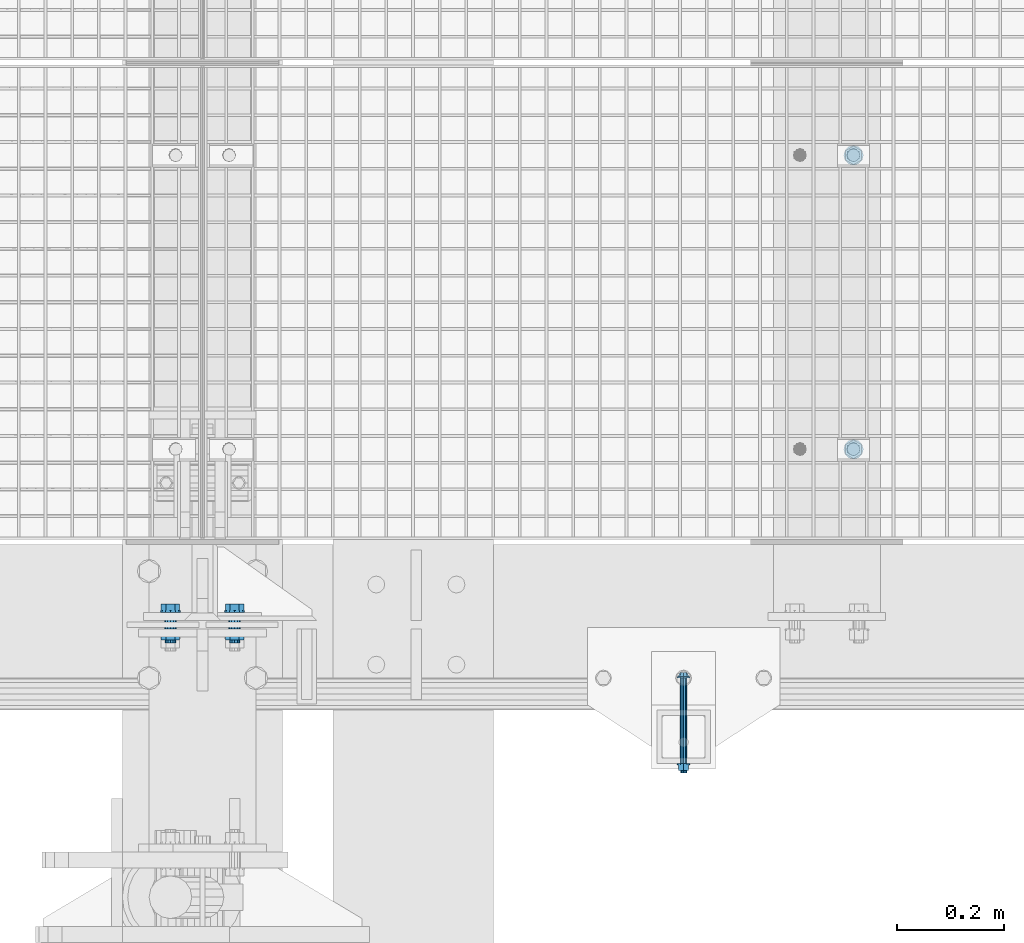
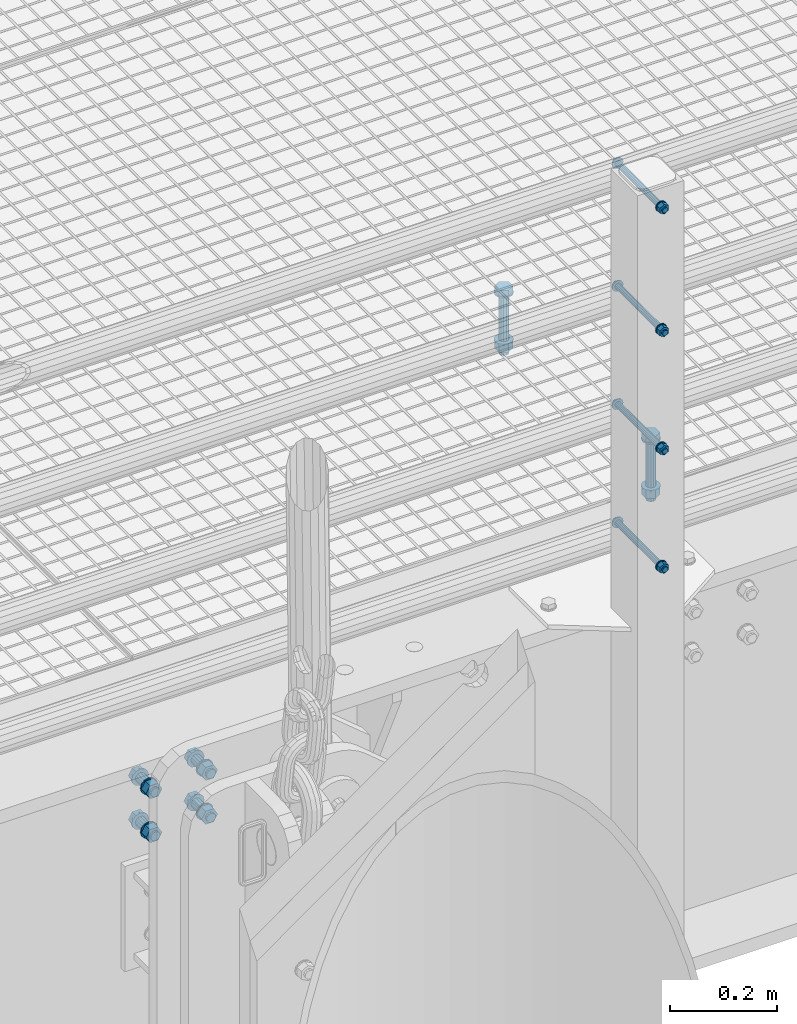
# One storey, part 23 of 1530: 6 mechanical fasteners.
"""IFC2X3 building model written with IfcOpenShell, lengths in millimetres."""

import ifcopenshell
import ifcopenshell.guid

model = None  # the IFC model being written
_history = None  # IfcOwnerHistory: only IFC2X3 demands one
_inside = {}  # id of a spatial element -> (the spatial element, [elements in it])
_under = {}  # id of a project, library or spatial element -> (it, [spatial elements below it])
_declared = {}  # id of a project -> (the project, [libraries it declares])
_typed = {}  # id of a type object -> (the type object, [elements of that type])
_made_of = {}  # id of a material, layer set ... -> (it, [elements and type objects made of it])


def new_model(schema):
    """Start an empty IFC model of exactly this schema.

    Asked for "IFC4X3", IfcOpenShell would pick the latest addendum, in which some entities
    have other attributes; the version numbers below select the first issue.
    IFC2X3 requires an IfcOwnerHistory on every rooted entity: one is made here for all.
    """
    global model, _history
    if schema == "IFC4X3":
        model = ifcopenshell.file(schema_version=(4, 3, 0, 0))
    else:
        model = ifcopenshell.file(schema=schema)
    _inside.clear()
    _under.clear()
    _declared.clear()
    _typed.clear()
    _made_of.clear()
    _history = None
    if model.schema == "IFC2X3":
        org = make("IfcOrganization", Name="unknown")
        user = make(
            "IfcPersonAndOrganization",
            ThePerson=make("IfcPerson", FamilyName="unknown"),
            TheOrganization=org,
        )
        app = make(
            "IfcApplication",
            ApplicationDeveloper=org,
            Version="unknown",
            ApplicationFullName="unknown",
            ApplicationIdentifier="unknown",
        )
        _history = make(
            "IfcOwnerHistory",
            OwningUser=user,
            OwningApplication=app,
            ChangeAction="ADDED",
            CreationDate=0,
        )
    return model


def make(cls, **values):
    """One entity of the class cls with the attributes given. An attribute that is None is left unset."""
    return model.create_entity(
        cls, **{name: value for name, value in values.items() if value is not None}
    )


def rooted(cls, **values):
    """An entity with a GlobalId (a new one), such as an element, a storey or a relation."""
    return make(cls, GlobalId=ifcopenshell.guid.new(), OwnerHistory=_history, **values)


def si_unit(unit_type, name, prefix=None):
    """IfcSIUnit, for example si_unit("LENGTHUNIT", "METRE", prefix="MILLI")."""
    return make("IfcSIUnit", UnitType=unit_type, Prefix=prefix, Name=name)


def assignment(units):
    """IfcUnitAssignment: the units of a project."""
    return None if units is None else make("IfcUnitAssignment", Units=units)


def point(xyz):
    """IfcCartesianPoint."""
    return None if xyz is None else make("IfcCartesianPoint", Coordinates=xyz)


def direction(xyz):
    """IfcDirection."""
    return None if xyz is None else make("IfcDirection", DirectionRatios=xyz)


def frame(location, z_axis=None, x_axis=None):
    """IfcAxis2Placement3D, a coordinate frame: its origin and axes. An axis left out is left unset."""
    return make(
        "IfcAxis2Placement3D",
        Location=point(location),
        Axis=direction(z_axis),
        RefDirection=direction(x_axis),
    )


def origin_with_axes():
    """The frame at (0, 0, 0) with the z axis (0, 0, 1) and the x axis (1, 0, 0) written out."""
    return frame((0.0, 0.0, 0.0), z_axis=(0.0, 0.0, 1.0), x_axis=(1.0, 0.0, 0.0))


def place(relative_to, where):
    """IfcLocalPlacement: puts the frame where relative to a parent placement (None: the world)."""
    return make(
        "IfcLocalPlacement", PlacementRelTo=relative_to, RelativePlacement=where
    )


def context(
    kind, dimensions, precision=None, world=None, true_north=None, identifier=None
):
    """IfcGeometricRepresentationContext, for example the 3D "Model" context."""
    return make(
        "IfcGeometricRepresentationContext",
        ContextIdentifier=identifier,
        ContextType=kind,
        CoordinateSpaceDimension=dimensions,
        Precision=precision,
        WorldCoordinateSystem=world,
        TrueNorth=true_north,
    )


def subcontext(parent, identifier, kind, view, scale=None):
    """IfcGeometricRepresentationSubContext, for example "Body" below "Model"."""
    return make(
        "IfcGeometricRepresentationSubContext",
        ContextIdentifier=identifier,
        ContextType=kind,
        ParentContext=parent,
        TargetScale=scale,
        TargetView=view,
    )


def project(units=None, contexts=None):
    """IfcProject with its units and contexts."""
    return rooted(
        "IfcProject",
        Name="project",
        RepresentationContexts=contexts,
        UnitsInContext=assignment(units),
    )


def spatial(cls, under=None, at=None, **own):
    """A site, building, storey or space (cls), placed at a placement, below another one or the project."""
    s = rooted(cls, ObjectPlacement=at, **own)
    if under is not None:
        _under.setdefault(under.id(), (under, []))[1].append(s)
    return s


def faces_of(points, faces, orient=None, outer=None):
    """IfcFace entities. A face is a list of loops; a loop is a list of indices into points, from 0.

    orient and outer hold one flag for each loop. By default every Orientation is true, the
    first loop of a face is its IfcFaceOuterBound and the others are IfcFaceBound.
    """
    made = []
    for i, loops in enumerate(faces):
        bounds = []
        for j, loop in enumerate(loops):
            is_outer = j == 0 if outer is None else outer[i][j]
            bounds.append(
                make(
                    "IfcFaceOuterBound" if is_outer else "IfcFaceBound",
                    Bound=make("IfcPolyLoop", Polygon=[points[k] for k in loop]),
                    Orientation=True if orient is None else orient[i][j],
                )
            )
        made.append(make("IfcFace", Bounds=bounds))
    return made


def faceted_brep(points, faces, orient=None, outer=None, voids=None):
    """IfcFacetedBrep: a solid bounded by flat faces; with voids (closed shells), ...WithVoids."""
    shared = [point(p) for p in points]
    hull = make("IfcClosedShell", CfsFaces=faces_of(shared, faces, orient, outer))
    if voids is None:
        return make("IfcFacetedBrep", Outer=hull)
    return make(
        "IfcFacetedBrepWithVoids",
        Outer=hull,
        Voids=[
            make(cls, CfsFaces=faces_of(shared, fs, o, b)) for cls, fs, o, b in voids
        ],
    )


def shape(context_of_items, identifier, shape_type, items):
    """IfcShapeRepresentation: the items that make up one representation, for example the "Body"."""
    return make(
        "IfcShapeRepresentation",
        ContextOfItems=context_of_items,
        RepresentationIdentifier=identifier,
        RepresentationType=shape_type,
        Items=items,
    )


def source(mapping_origin, context_of_items, identifier, shape_type, items):
    """IfcRepresentationMap: a shape defined once, which mapped items show again and again."""
    return make(
        "IfcRepresentationMap",
        MappingOrigin=mapping_origin,
        MappedRepresentation=shape(context_of_items, identifier, shape_type, items),
    )


def transform(
    local_origin,
    x_axis=None,
    y_axis=None,
    z_axis=None,
    scale=None,
    scale2=None,
    scale3=None,
    uniform=True,
):
    """IfcCartesianTransformationOperator3D, or its non-uniform kind. x_axis, y_axis, z_axis: its Axis1, 2, 3."""
    if uniform:
        return make(
            "IfcCartesianTransformationOperator3D",
            Axis1=direction(x_axis),
            Axis2=direction(y_axis),
            LocalOrigin=point(local_origin),
            Scale=scale,
            Axis3=direction(z_axis),
        )
    return make(
        "IfcCartesianTransformationOperator3DnonUniform",
        Axis1=direction(x_axis),
        Axis2=direction(y_axis),
        LocalOrigin=point(local_origin),
        Scale=scale,
        Axis3=direction(z_axis),
        Scale2=scale2,
        Scale3=scale3,
    )


def mapped(mapping_source, mapping_target):
    """IfcMappedItem: shows the shape of a source again, moved by a transform."""
    return make(
        "IfcMappedItem", MappingSource=mapping_source, MappingTarget=mapping_target
    )


def material(Name=None, Category=None):
    """IfcMaterial."""
    return make("IfcMaterial", Name=Name, Category=Category)


def made_of(thing, what):
    """Note that an element or type object is made of a material, layer set ...; save() writes the relation."""
    if what is not None:
        _made_of.setdefault(what.id(), (what, []))[1].append(thing)
    return thing


def type_object(cls, material=None, **own):
    """A type object (cls), such as IfcWallType, which elements share."""
    return made_of(rooted(cls, **own), material)


def element(
    cls,
    number,
    at=None,
    inside=None,
    cuts=None,
    type_object=None,
    material=None,
    context=None,
    identifier="Body",
    shape_type=None,
    held_by="IfcProductDefinitionShape",
    body=None,
    shapes=None,
    **own,
):
    """One element of the class cls, such as IfcWall. Its Tag is "e" and its number.

    at: its placement. inside: the storey or other place that contains it. cuts: it is an
    opening in that element (IfcRelVoidsElement). A single representation is given by context,
    identifier, shape_type and body (its items); several are given by shapes. held_by: the class
    of the entity that holds the representations. save() writes the other relations.
    """
    e = rooted(cls, Tag="e%d" % number, ObjectPlacement=at, **own)
    if body is not None:
        shapes = [shape(context, identifier, shape_type, body)]
    if shapes is not None:
        e.Representation = make(held_by, Representations=shapes)
    if inside is not None:
        _inside.setdefault(inside.id(), (inside, []))[1].append(e)
    if cuts is not None:
        rooted(
            "IfcRelVoidsElement", RelatingBuildingElement=cuts, RelatedOpeningElement=e
        )
    if type_object is not None:
        _typed.setdefault(type_object.id(), (type_object, []))[1].append(e)
    return made_of(e, material)


def aggregate(whole, parts):
    """IfcRelAggregates: a whole, such as a stair, and the parts it consists of."""
    return rooted("IfcRelAggregates", RelatingObject=whole, RelatedObjects=parts)


def save(model, path):
    """Write the relations noted so far, then the file.

    IfcRelAggregates (storeys below a building ...), IfcRelContainedInSpatialStructure (elements
    in a storey), IfcRelDefinesByType, IfcRelAssociatesMaterial and IfcRelDeclares: one each for
    every whole, place, type object, material and project.
    """
    for whole, parts in _under.values():
        aggregate(whole, parts)
    for where, things in _inside.values():
        rooted(
            "IfcRelContainedInSpatialStructure",
            RelatedElements=things,
            RelatingStructure=where,
        )
    for kind, things in _typed.values():
        rooted("IfcRelDefinesByType", RelatedObjects=things, RelatingType=kind)
    for what, things in _made_of.values():
        rooted("IfcRelAssociatesMaterial", RelatedObjects=things, RelatingMaterial=what)
    for by, libraries in _declared.values():
        rooted("IfcRelDeclares", RelatingContext=by, RelatedDefinitions=libraries)
    model.write(path)


model = new_model("IFC2X3")

# Units and contexts
model_context = context("Model", 3, precision=1e-05, world=origin_with_axes())
body_context = subcontext(model_context, "Body", "Model", "MODEL_VIEW")
ifc_project = project(units=[si_unit("LENGTHUNIT", "METRE", prefix="MILLI"), si_unit("AREAUNIT", "SQUARE_METRE"), si_unit("VOLUMEUNIT", "CUBIC_METRE"), si_unit("MASSUNIT", "GRAM", prefix="KILO"), si_unit("TIMEUNIT", "SECOND"), si_unit("PLANEANGLEUNIT", "RADIAN"), si_unit("SOLIDANGLEUNIT", "STERADIAN"), si_unit("THERMODYNAMICTEMPERATUREUNIT", "DEGREE_CELSIUS"), si_unit("LUMINOUSINTENSITYUNIT", "LUMEN")], contexts=[model_context])

# Site, building, storey
site_placement = place(None, origin_with_axes())
site = spatial("IfcSite", under=ifc_project, at=site_placement, Name="Brattvåg", CompositionType="ELEMENT")
building_placement = place(site_placement, origin_with_axes())
building = spatial("IfcBuilding", under=site, at=building_placement, Name="Undefined", CompositionType="ELEMENT")
storey_placement = place(building_placement, origin_with_axes())
storey = spatial("IfcBuildingStorey", under=building, at=storey_placement, Name="Undefined", CompositionType="ELEMENT", Elevation=0.0)

# Mechanical fasteners
ifc_material = material(Name="8")
mechanical_fastener_type = type_object("IfcMechanicalFastenerType", Name="Bolt assembly")
shared_shape_1 = source(origin_with_axes(), body_context, "Body", "Brep", [
    faceted_brep([(17.3205080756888, -10.5, 0.0), (8.66025403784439, -10.5, 15.0), (-8.66025403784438, -10.5, 15.0), (-17.3205080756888, -10.5, 2.12115047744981e-15), (-8.66025403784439, -10.5, -15.0), (8.66025403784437, -10.5, -15.0), (8.66025403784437, 2.0, -15.0), (-8.66025403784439, 2.0, -15.0), (-17.3205080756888, 2.0, 2.12115047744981e-15), (-8.66025403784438, 2.0, 15.0), (8.66025403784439, 2.0, 15.0), (17.3205080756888, 2.0, 0.0), (10.0, 2.0, 0.0), (8.66025403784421, 2.0, 5.0000000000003), (4.9999999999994, 2.0, 8.66025403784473), (-1.03633598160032e-12, 2.0, 10.0), (-5.00000000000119, 2.0, 8.6602540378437), (-8.66025403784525, 2.0, 4.99999999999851), (-10.0, 2.0, -2.07267196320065e-12), (-8.66025403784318, 2.0, -5.00000000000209), (-4.99999999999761, 2.0, -8.66025403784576), (3.09790571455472e-12, 2.0, -10.0), (5.00000000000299, 2.0, -8.66025403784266), (8.66025403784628, 2.0, -4.99999999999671), (8.66025403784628, 142.0, -4.99999999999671), (5.00000000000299, 142.0, -8.66025403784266), (3.09790571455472e-12, 142.0, -10.0), (-4.99999999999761, 142.0, -8.66025403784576), (-8.66025403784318, 142.0, -5.00000000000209), (-10.0, 142.0, -2.07267196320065e-12), (-8.66025403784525, 142.0, 4.99999999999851), (-5.00000000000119, 142.0, 8.6602540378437), (-1.03633598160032e-12, 142.0, 10.0), (4.9999999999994, 142.0, 8.66025403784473), (8.66025403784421, 142.0, 5.0000000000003), (10.0, 142.0, 0.0), (18.5, 2.0, 0.0), (16.0214699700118, 2.0, 9.25000000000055), (9.2499999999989, 2.0, 16.0214699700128), (-1.9172215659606e-12, 2.0, 18.5), (-9.25000000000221, 2.0, 16.0214699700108), (-16.0214699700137, 2.0, 9.24999999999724), (-18.5, 2.0, -3.83444313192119e-12), (-16.0214699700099, 2.0, -9.25000000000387), (-9.24999999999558, 2.0, -16.0214699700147), (5.73112557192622e-12, 2.0, -18.5), (9.25000000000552, 2.0, -16.0214699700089), (16.0214699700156, 2.0, -9.24999999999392), (16.0214699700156, 5.0, -9.24999999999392), (9.25000000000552, 5.0, -16.0214699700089), (5.73112557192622e-12, 5.0, -18.5), (-9.24999999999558, 5.0, -16.0214699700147), (-16.0214699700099, 5.0, -9.25000000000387), (-18.5, 5.0, -3.83444313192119e-12), (-16.0214699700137, 5.0, 9.24999999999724), (-9.25000000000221, 5.0, 16.0214699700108), (-1.9172215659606e-12, 5.0, 18.5), (9.2499999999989, 5.0, 16.0214699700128), (16.0214699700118, 5.0, 9.25000000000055), (18.5, 5.0, 0.0), (18.5, 109.998931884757, 0.0), (16.0214699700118, 109.998931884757, 9.25000000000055), (9.2499999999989, 109.998931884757, 16.0214699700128), (-1.9172215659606e-12, 109.998931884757, 18.5), (-9.25000000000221, 109.998931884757, 16.0214699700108), (-16.0214699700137, 109.998931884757, 9.24999999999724), (-18.5, 109.998931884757, -3.83444313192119e-12), (-16.0214699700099, 109.998931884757, -9.25000000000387), (-9.24999999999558, 109.998931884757, -16.0214699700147), (5.73112557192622e-12, 109.998931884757, -18.5), (9.25000000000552, 109.998931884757, -16.0214699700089), (16.0214699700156, 109.998931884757, -9.24999999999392), (16.0214699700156, 112.998931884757, -9.24999999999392), (9.25000000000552, 112.998931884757, -16.0214699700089), (5.73112557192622e-12, 112.998931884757, -18.5), (-9.24999999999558, 112.998931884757, -16.0214699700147), (-16.0214699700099, 112.998931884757, -9.25000000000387), (-18.5, 112.998931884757, -3.83444313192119e-12), (-16.0214699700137, 112.998931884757, 9.24999999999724), (-9.25000000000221, 112.998931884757, 16.0214699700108), (-1.9172215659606e-12, 112.998931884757, 18.5), (9.2499999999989, 112.998931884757, 16.0214699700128), (16.0214699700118, 112.998931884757, 9.25000000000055), (18.5, 112.998931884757, 0.0), (17.3205080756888, 112.998931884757, 0.0), (8.66025403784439, 112.998931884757, 15.0), (-8.66025403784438, 112.998931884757, 15.0), (-17.3205080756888, 112.998931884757, 2.12115047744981e-15), (-8.66025403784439, 112.998931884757, -15.0), (8.66025403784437, 112.998931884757, -15.0), (8.66025403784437, 130.998931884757, -15.0), (-8.66025403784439, 130.998931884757, -15.0), (-17.3205080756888, 130.998931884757, 2.12115047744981e-15), (-8.66025403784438, 130.998931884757, 15.0), (8.66025403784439, 130.998931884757, 15.0), (17.3205080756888, 130.998931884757, 0.0)], [[[0, 1, 2, 3, 4, 5]], [[6, 7, 8, 9, 10, 11]], [[0, 11, 10, 1]], [[1, 10, 9, 2]], [[2, 9, 8, 3]], [[3, 8, 7, 4]], [[4, 7, 6, 5]], [[5, 6, 11, 0]], [[12, 13, 14, 15, 16, 17, 18, 19, 20, 21, 22, 23]], [[24, 25, 26, 27, 28, 29, 30, 31, 32, 33, 34, 35]], [[12, 35, 34, 13]], [[13, 34, 33, 14]], [[14, 33, 32, 15]], [[15, 32, 31, 16]], [[16, 31, 30, 17]], [[17, 30, 29, 18]], [[18, 29, 28, 19]], [[19, 28, 27, 20]], [[20, 27, 26, 21]], [[21, 26, 25, 22]], [[22, 25, 24, 23]], [[23, 24, 35, 12]], [[36, 37, 38, 39, 40, 41, 42, 43, 44, 45, 46, 47]], [[48, 49, 50, 51, 52, 53, 54, 55, 56, 57, 58, 59]], [[36, 59, 58, 37]], [[37, 58, 57, 38]], [[38, 57, 56, 39]], [[39, 56, 55, 40]], [[40, 55, 54, 41]], [[41, 54, 53, 42]], [[42, 53, 52, 43]], [[43, 52, 51, 44]], [[44, 51, 50, 45]], [[45, 50, 49, 46]], [[46, 49, 48, 47]], [[47, 48, 59, 36]], [[60, 61, 62, 63, 64, 65, 66, 67, 68, 69, 70, 71]], [[72, 73, 74, 75, 76, 77, 78, 79, 80, 81, 82, 83]], [[60, 83, 82, 61]], [[61, 82, 81, 62]], [[62, 81, 80, 63]], [[63, 80, 79, 64]], [[64, 79, 78, 65]], [[65, 78, 77, 66]], [[66, 77, 76, 67]], [[67, 76, 75, 68]], [[68, 75, 74, 69]], [[69, 74, 73, 70]], [[70, 73, 72, 71]], [[71, 72, 83, 60]], [[84, 85, 86, 87, 88, 89]], [[90, 91, 92, 93, 94, 95]], [[84, 95, 94, 85]], [[85, 94, 93, 86]], [[86, 93, 92, 87]], [[87, 92, 91, 88]], [[88, 91, 90, 89]], [[89, 90, 95, 84]]]),
])
mechanical_fastener_1_placement = place(storey_placement, frame((13468.0119254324, 327.99, -25.0), z_axis=(-1.0, 1.99999855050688e-09, 0.0), x_axis=(0.0, 1.0, 0.0)))
element("IfcMechanicalFastener", 1, at=mechanical_fastener_1_placement, inside=storey, type_object=mechanical_fastener_type, material=ifc_material, Name="Bolt assembly", NominalDiameter=20.0, NominalLength=140.0, context=body_context, shape_type="MappedRepresentation", body=[
    mapped(shared_shape_1, transform((0.0, 0.0, 0.0))),
    mapped(shared_shape_1, transform((549.999999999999, 0.0, 0.0))),
])
shared_shape_2 = source(origin_with_axes(), body_context, "Body", "Brep", [
    faceted_brep([(6.49435320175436, -9.99984019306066, 0.0), (4.59220118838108, -9.99984019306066, 4.59220118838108), (3.97664443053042e-16, -9.99984019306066, 6.49435320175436), (-4.59220118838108, -9.99984019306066, 4.59220118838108), (-6.49435320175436, -9.99984019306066, 7.95328886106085e-16), (-4.59220118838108, -9.99984019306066, -4.59220118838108), (-1.19299332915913e-15, -9.99984019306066, -6.49435320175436), (4.59220118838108, -9.99984019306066, -4.59220118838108), (7.34846922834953, -2.49984019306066, -7.34846922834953), (-1.90903542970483e-15, -2.49984019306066, -10.3923048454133), (-7.34846922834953, -2.49984019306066, -7.34846922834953), (-10.3923048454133, -2.49984019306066, 1.27269028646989e-15), (-7.34846922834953, -2.49984019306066, 7.34846922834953), (6.36345143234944e-16, -2.49984019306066, 10.3923048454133), (7.34846922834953, -2.49984019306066, 7.34846922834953), (10.3923048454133, -2.49984019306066, 0.0), (6.0, -2.49984019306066, 0.0), (5.19615242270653, -2.49984019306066, 3.00000000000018), (2.99999999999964, -2.49984019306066, 5.19615242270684), (-6.21801588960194e-13, -2.49984019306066, 6.0), (-3.00000000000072, -2.49984019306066, 5.19615242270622), (-5.19615242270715, -2.49984019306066, 2.9999999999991), (-6.0, -2.49984019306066, -1.24360317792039e-12), (-5.19615242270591, -2.49984019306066, -3.00000000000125), (-2.99999999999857, -2.49984019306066, -5.19615242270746), (1.85874342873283e-12, -2.49984019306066, -6.0), (3.00000000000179, -2.49984019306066, -5.1961524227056), (5.19615242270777, -2.49984019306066, -2.99999999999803), (5.19615242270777, 177.500159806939, -2.99999999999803), (3.00000000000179, 177.500159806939, -5.1961524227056), (1.85874342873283e-12, 177.500159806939, -6.0), (-2.99999999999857, 177.500159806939, -5.19615242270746), (-5.19615242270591, 177.500159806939, -3.00000000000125), (-6.0, 177.500159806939, -1.24360317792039e-12), (-5.19615242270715, 177.500159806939, 2.9999999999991), (-3.00000000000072, 177.500159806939, 5.19615242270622), (-6.21801588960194e-13, 177.500159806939, 6.0), (2.99999999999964, 177.500159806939, 5.19615242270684), (5.19615242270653, 177.500159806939, 3.00000000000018), (6.0, 177.500159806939, 0.0), (12.0, -2.49984019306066, 0.0), (10.3923048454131, -2.49984019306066, 6.00000000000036), (5.99999999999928, -2.49984019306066, 10.3923048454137), (-1.24360317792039e-12, -2.49984019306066, 12.0), (-6.00000000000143, -2.49984019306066, 10.3923048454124), (-10.3923048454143, -2.49984019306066, 5.99999999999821), (-12.0, -2.49984019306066, -2.48720635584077e-12), (-10.3923048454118, -2.49984019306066, -6.00000000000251), (-5.99999999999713, -2.49984019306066, -10.3923048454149), (3.71748685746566e-12, -2.49984019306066, -12.0), (6.00000000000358, -2.49984019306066, -10.3923048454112), (10.3923048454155, -2.49984019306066, -5.99999999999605), (10.3923048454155, 0.000159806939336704, -5.99999999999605), (6.00000000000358, 0.000159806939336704, -10.3923048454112), (3.71748685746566e-12, 0.000159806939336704, -12.0), (-5.99999999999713, 0.000159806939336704, -10.3923048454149), (-10.3923048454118, 0.000159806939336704, -6.00000000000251), (-12.0, 0.000159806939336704, -2.48720635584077e-12), (-10.3923048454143, 0.000159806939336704, 5.99999999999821), (-6.00000000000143, 0.000159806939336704, 10.3923048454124), (-1.24360317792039e-12, 0.000159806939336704, 12.0), (5.99999999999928, 0.000159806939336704, 10.3923048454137), (10.3923048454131, 0.000159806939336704, 6.00000000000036), (12.0, 0.000159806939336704, 0.0), (12.0, 160.299998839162, 0.0), (10.3923048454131, 160.299998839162, 6.00000000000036), (5.99999999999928, 160.299998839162, 10.3923048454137), (-1.24360317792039e-12, 160.299998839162, 12.0), (-6.00000000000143, 160.299998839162, 10.3923048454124), (-10.3923048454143, 160.299998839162, 5.99999999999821), (-12.0, 160.299998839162, -2.48720635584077e-12), (-10.3923048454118, 160.299998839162, -6.00000000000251), (-5.99999999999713, 160.299998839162, -10.3923048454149), (3.71748685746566e-12, 160.299998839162, -12.0), (6.00000000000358, 160.299998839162, -10.3923048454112), (10.3923048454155, 160.299998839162, -5.99999999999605), (10.3923048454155, 162.799998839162, -5.99999999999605), (6.00000000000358, 162.799998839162, -10.3923048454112), (3.71748685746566e-12, 162.799998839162, -12.0), (-5.99999999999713, 162.799998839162, -10.3923048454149), (-10.3923048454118, 162.799998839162, -6.00000000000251), (-12.0, 162.799998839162, -2.48720635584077e-12), (-10.3923048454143, 162.799998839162, 5.99999999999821), (-6.00000000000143, 162.799998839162, 10.3923048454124), (-1.24360317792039e-12, 162.799998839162, 12.0), (5.99999999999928, 162.799998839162, 10.3923048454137), (10.3923048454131, 162.799998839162, 6.00000000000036), (12.0, 162.799998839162, 0.0), (10.9696551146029, 162.799998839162, 0.0), (5.48482755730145, 162.799998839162, 9.5), (-5.48482755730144, 162.799998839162, 9.5), (-10.9696551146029, 162.799998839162, 1.34339530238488e-15), (-5.48482755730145, 162.799998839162, -9.5), (5.48482755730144, 162.799998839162, -9.5), (5.48482755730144, 173.599999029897, -9.5), (-5.48482755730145, 173.599999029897, -9.5), (-10.9696551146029, 173.599999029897, 1.34339530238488e-15), (-5.48482755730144, 173.599999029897, 9.5), (5.48482755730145, 173.599999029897, 9.5), (10.9696551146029, 173.599999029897, 0.0)], [[[0, 1, 2, 3, 4, 5, 6, 7]], [[8, 9, 10, 11, 12, 13, 14, 15]], [[0, 15, 14, 1]], [[1, 14, 13, 2]], [[2, 13, 12, 3]], [[3, 12, 11, 4]], [[4, 11, 10, 5]], [[5, 10, 9, 6]], [[6, 9, 8, 7]], [[7, 8, 15, 0]], [[16, 17, 18, 19, 20, 21, 22, 23, 24, 25, 26, 27]], [[28, 29, 30, 31, 32, 33, 34, 35, 36, 37, 38, 39]], [[16, 39, 38, 17]], [[17, 38, 37, 18]], [[18, 37, 36, 19]], [[19, 36, 35, 20]], [[20, 35, 34, 21]], [[21, 34, 33, 22]], [[22, 33, 32, 23]], [[23, 32, 31, 24]], [[24, 31, 30, 25]], [[25, 30, 29, 26]], [[26, 29, 28, 27]], [[27, 28, 39, 16]], [[40, 41, 42, 43, 44, 45, 46, 47, 48, 49, 50, 51]], [[52, 53, 54, 55, 56, 57, 58, 59, 60, 61, 62, 63]], [[40, 63, 62, 41]], [[41, 62, 61, 42]], [[42, 61, 60, 43]], [[43, 60, 59, 44]], [[44, 59, 58, 45]], [[45, 58, 57, 46]], [[46, 57, 56, 47]], [[47, 56, 55, 48]], [[48, 55, 54, 49]], [[49, 54, 53, 50]], [[50, 53, 52, 51]], [[51, 52, 63, 40]], [[64, 65, 66, 67, 68, 69, 70, 71, 72, 73, 74, 75]], [[76, 77, 78, 79, 80, 81, 82, 83, 84, 85, 86, 87]], [[64, 87, 86, 65]], [[65, 86, 85, 66]], [[66, 85, 84, 67]], [[67, 84, 83, 68]], [[68, 83, 82, 69]], [[69, 82, 81, 70]], [[70, 81, 80, 71]], [[71, 80, 79, 72]], [[72, 79, 78, 73]], [[73, 78, 77, 74]], [[74, 77, 76, 75]], [[75, 76, 87, 64]], [[88, 89, 90, 91, 92, 93]], [[94, 95, 96, 97, 98, 99]], [[88, 99, 98, 89]], [[89, 98, 97, 90]], [[90, 97, 96, 91]], [[91, 96, 95, 92]], [[92, 95, 94, 93]], [[93, 94, 99, 88]]]),
    faceted_brep([(6.5, 0.100159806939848, 0.0), (5.62916512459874, 0.100159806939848, 3.25000000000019), (3.24999999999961, 0.100159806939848, 5.62916512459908), (-6.7361838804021e-13, 0.100159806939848, 6.5), (-3.25000000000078, 0.100159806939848, 5.6291651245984), (-5.62916512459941, 0.100159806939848, 3.24999999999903), (-6.5, 0.100159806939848, -1.34723677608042e-12), (-5.62916512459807, 0.100159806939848, -3.25000000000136), (-3.24999999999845, 0.100159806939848, -5.62916512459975), (2.01363871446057e-12, 0.100159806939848, -6.5), (3.25000000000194, 0.100159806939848, -5.62916512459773), (5.62916512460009, 0.100159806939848, -3.24999999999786), (5.62916512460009, 60.4001552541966, -3.24999999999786), (3.25000000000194, 60.4001552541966, -5.62916512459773), (2.01363871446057e-12, 60.4001552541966, -6.5), (-3.24999999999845, 60.4001552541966, -5.62916512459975), (-5.62916512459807, 60.4001552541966, -3.25000000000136), (-6.5, 60.4001552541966, -1.34723677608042e-12), (-5.62916512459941, 60.4001552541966, 3.24999999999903), (-3.25000000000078, 60.4001552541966, 5.6291651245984), (-6.7361838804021e-13, 60.4001552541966, 6.5), (3.24999999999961, 60.4001552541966, 5.62916512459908), (5.62916512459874, 60.4001552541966, 3.25000000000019), (6.5, 60.4001552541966, 0.0), (6.5, 60.1999988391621, 0.0), (5.62916512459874, 60.1999988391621, 3.25000000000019), (3.24999999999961, 60.1999988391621, 5.62916512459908), (-6.7361838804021e-13, 60.1999988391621, 6.5), (-3.25000000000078, 60.1999988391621, 5.6291651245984), (-5.62916512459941, 60.1999988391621, 3.24999999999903), (-6.5, 60.1999988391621, -1.34723677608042e-12), (-5.62916512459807, 60.1999988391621, -3.25000000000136), (-3.24999999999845, 60.1999988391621, -5.62916512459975), (2.01363871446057e-12, 60.1999988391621, -6.5), (3.25000000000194, 60.1999988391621, -5.62916512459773), (5.62916512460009, 60.1999988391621, -3.24999999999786), (5.62916512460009, 160.299998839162, -3.24999999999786), (3.25000000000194, 160.299998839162, -5.62916512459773), (2.01363871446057e-12, 160.299998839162, -6.5), (-3.24999999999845, 160.299998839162, -5.62916512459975), (-5.62916512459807, 160.299998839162, -3.25000000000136), (-6.5, 160.299998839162, -1.34723677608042e-12), (-5.62916512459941, 160.299998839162, 3.24999999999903), (-3.25000000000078, 160.299998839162, 5.6291651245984), (-6.7361838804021e-13, 160.299998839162, 6.5), (3.24999999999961, 160.299998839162, 5.62916512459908), (5.62916512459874, 160.299998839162, 3.25000000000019), (6.5, 160.299998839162, 0.0)], [[[0, 1, 2, 3, 4, 5, 6, 7, 8, 9, 10, 11]], [[12, 13, 14, 15, 16, 17, 18, 19, 20, 21, 22, 23]], [[0, 23, 22, 1]], [[1, 22, 21, 2]], [[2, 21, 20, 3]], [[3, 20, 19, 4]], [[4, 19, 18, 5]], [[5, 18, 17, 6]], [[6, 17, 16, 7]], [[7, 16, 15, 8]], [[8, 15, 14, 9]], [[9, 14, 13, 10]], [[10, 13, 12, 11]], [[11, 12, 23, 0]], [[24, 25, 26, 27, 28, 29, 30, 31, 32, 33, 34, 35]], [[36, 37, 38, 39, 40, 41, 42, 43, 44, 45, 46, 47]], [[24, 47, 46, 25]], [[25, 46, 45, 26]], [[26, 45, 44, 27]], [[27, 44, 43, 28]], [[28, 43, 42, 29]], [[29, 42, 41, 30]], [[30, 41, 40, 31]], [[31, 40, 39, 32]], [[32, 39, 38, 33]], [[33, 38, 37, 34]], [[34, 37, 36, 35]], [[35, 36, 47, 24]]]),
])
for number, where, z_axis, x_axis, name in (
    (2, (13149.9999999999, -99.6997226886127, 149.550000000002), (-1.0, 1.99999855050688e-09, 0.0), (0.0, 0.0, -1.0), "Bolt assembly"),
    (3, (13149.9999999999, -99.6997226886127, 419.550000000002), (-1.0, 1.99999855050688e-09, 0.0), (0.0, 0.0, -1.0), "Bolt assembly"),
    (4, (13149.9999999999, -99.6997226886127, 689.550000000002), (-1.0, 1.99999855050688e-09, 0.0), (0.0, 0.0, -1.0), "Bolt assembly"),
    (5, (13149.9999999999, -99.6997226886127, 969.550000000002), (-1.0, 1.99999855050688e-09, 0.0), (0.0, 0.0, -1.0), "Bolt assembly"),
):
    element("IfcMechanicalFastener", number, at=place(storey_placement, frame(where, z_axis=z_axis, x_axis=x_axis)), inside=storey, type_object=mechanical_fastener_type, material=ifc_material, Name=name, NominalDiameter=12.0, NominalLength=180.0, context=body_context, shape_type="MappedRepresentation", body=[
        mapped(shared_shape_2, transform((0.0, 0.0, 0.0))),
    ])
shared_shape_3 = source(origin_with_axes(), body_context, "Body", "Brep", [
    faceted_brep([(17.3205080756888, -15.5000000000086, 0.0), (8.66025403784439, -15.5000000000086, 15.0), (-8.66025403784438, -15.5000000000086, 15.0), (-17.3205080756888, -15.5000000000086, 2.12115047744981e-15), (-8.66025403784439, -15.5000000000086, -15.0), (8.66025403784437, -15.5000000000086, -15.0), (8.66025403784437, -3.00000000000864, -15.0), (-8.66025403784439, -3.00000000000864, -15.0), (-17.3205080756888, -3.00000000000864, 2.12115047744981e-15), (-8.66025403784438, -3.00000000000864, 15.0), (8.66025403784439, -3.00000000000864, 15.0), (17.3205080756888, -3.00000000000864, 0.0), (10.0, -3.00000000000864, 0.0), (8.66025403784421, -3.00000000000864, 5.0000000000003), (4.9999999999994, -3.00000000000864, 8.66025403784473), (-1.03633598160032e-12, -3.00000000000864, 10.0), (-5.00000000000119, -3.00000000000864, 8.6602540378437), (-8.66025403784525, -3.00000000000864, 4.99999999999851), (-10.0, -3.00000000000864, -2.07267196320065e-12), (-8.66025403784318, -3.00000000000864, -5.00000000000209), (-4.99999999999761, -3.00000000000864, -8.66025403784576), (3.09790571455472e-12, -3.00000000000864, -10.0), (5.00000000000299, -3.00000000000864, -8.66025403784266), (8.66025403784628, -3.00000000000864, -4.99999999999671), (8.66025403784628, 57.0, -4.99999999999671), (5.00000000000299, 57.0, -8.66025403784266), (3.09790571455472e-12, 57.0, -10.0), (-4.99999999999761, 57.0, -8.66025403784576), (-8.66025403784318, 57.0, -5.00000000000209), (-10.0, 57.0, -2.07267196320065e-12), (-8.66025403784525, 57.0, 4.99999999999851), (-5.00000000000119, 57.0, 8.6602540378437), (-1.03633598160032e-12, 57.0, 10.0), (4.9999999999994, 57.0, 8.66025403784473), (8.66025403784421, 57.0, 5.0000000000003), (10.0, 57.0, 0.0), (18.5, -3.00000000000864, 0.0), (16.0214699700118, -3.00000000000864, 9.25000000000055), (9.2499999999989, -3.00000000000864, 16.0214699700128), (-1.9172215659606e-12, -3.00000000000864, 18.5), (-9.25000000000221, -3.00000000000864, 16.0214699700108), (-16.0214699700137, -3.00000000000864, 9.24999999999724), (-18.5, -3.00000000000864, -3.83444313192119e-12), (-16.0214699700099, -3.00000000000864, -9.25000000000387), (-9.24999999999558, -3.00000000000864, -16.0214699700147), (5.73112557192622e-12, -3.00000000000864, -18.5), (9.25000000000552, -3.00000000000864, -16.0214699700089), (16.0214699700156, -3.00000000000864, -9.24999999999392), (16.0214699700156, -8.64019966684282e-12, -9.24999999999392), (9.25000000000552, -8.64019966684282e-12, -16.0214699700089), (5.73112557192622e-12, -8.64019966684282e-12, -18.5), (-9.24999999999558, -8.64019966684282e-12, -16.0214699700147), (-16.0214699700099, -8.64019966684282e-12, -9.25000000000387), (-18.5, -8.64019966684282e-12, -3.83444313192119e-12), (-16.0214699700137, -8.64019966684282e-12, 9.24999999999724), (-9.25000000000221, -8.64019966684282e-12, 16.0214699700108), (-1.9172215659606e-12, -8.64019966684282e-12, 18.5), (9.2499999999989, -8.64019966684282e-12, 16.0214699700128), (16.0214699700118, -8.64019966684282e-12, 9.25000000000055), (18.5, -8.64019966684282e-12, 0.0), (18.5, 31.0015563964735, 0.0), (16.0214699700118, 31.0015563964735, 9.25000000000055), (9.2499999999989, 31.0015563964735, 16.0214699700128), (-1.9172215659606e-12, 31.0015563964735, 18.5), (-9.25000000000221, 31.0015563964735, 16.0214699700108), (-16.0214699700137, 31.0015563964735, 9.24999999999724), (-18.5, 31.0015563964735, -3.83444313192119e-12), (-16.0214699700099, 31.0015563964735, -9.25000000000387), (-9.24999999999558, 31.0015563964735, -16.0214699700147), (5.73112557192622e-12, 31.0015563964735, -18.5), (9.25000000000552, 31.0015563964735, -16.0214699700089), (16.0214699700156, 31.0015563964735, -9.24999999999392), (16.0214699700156, 34.0015563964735, -9.24999999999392), (9.25000000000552, 34.0015563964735, -16.0214699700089), (5.73112557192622e-12, 34.0015563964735, -18.5), (-9.24999999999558, 34.0015563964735, -16.0214699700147), (-16.0214699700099, 34.0015563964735, -9.25000000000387), (-18.5, 34.0015563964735, -3.83444313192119e-12), (-16.0214699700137, 34.0015563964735, 9.24999999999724), (-9.25000000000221, 34.0015563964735, 16.0214699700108), (-1.9172215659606e-12, 34.0015563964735, 18.5), (9.2499999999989, 34.0015563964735, 16.0214699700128), (16.0214699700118, 34.0015563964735, 9.25000000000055), (18.5, 34.0015563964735, 0.0), (17.3205080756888, 34.0015563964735, 0.0), (8.66025403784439, 34.0015563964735, 15.0), (-8.66025403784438, 34.0015563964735, 15.0), (-17.3205080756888, 34.0015563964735, 2.12115047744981e-15), (-8.66025403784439, 34.0015563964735, -15.0), (8.66025403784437, 34.0015563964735, -15.0), (8.66025403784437, 52.0015563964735, -15.0), (-8.66025403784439, 52.0015563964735, -15.0), (-17.3205080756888, 52.0015563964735, 2.12115047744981e-15), (-8.66025403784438, 52.0015563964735, 15.0), (8.66025403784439, 52.0015563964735, 15.0), (17.3205080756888, 52.0015563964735, 0.0)], [[[0, 1, 2, 3, 4, 5]], [[6, 7, 8, 9, 10, 11]], [[0, 11, 10, 1]], [[1, 10, 9, 2]], [[2, 9, 8, 3]], [[3, 8, 7, 4]], [[4, 7, 6, 5]], [[5, 6, 11, 0]], [[12, 13, 14, 15, 16, 17, 18, 19, 20, 21, 22, 23]], [[24, 25, 26, 27, 28, 29, 30, 31, 32, 33, 34, 35]], [[12, 35, 34, 13]], [[13, 34, 33, 14]], [[14, 33, 32, 15]], [[15, 32, 31, 16]], [[16, 31, 30, 17]], [[17, 30, 29, 18]], [[18, 29, 28, 19]], [[19, 28, 27, 20]], [[20, 27, 26, 21]], [[21, 26, 25, 22]], [[22, 25, 24, 23]], [[23, 24, 35, 12]], [[36, 37, 38, 39, 40, 41, 42, 43, 44, 45, 46, 47]], [[48, 49, 50, 51, 52, 53, 54, 55, 56, 57, 58, 59]], [[36, 59, 58, 37]], [[37, 58, 57, 38]], [[38, 57, 56, 39]], [[39, 56, 55, 40]], [[40, 55, 54, 41]], [[41, 54, 53, 42]], [[42, 53, 52, 43]], [[43, 52, 51, 44]], [[44, 51, 50, 45]], [[45, 50, 49, 46]], [[46, 49, 48, 47]], [[47, 48, 59, 36]], [[60, 61, 62, 63, 64, 65, 66, 67, 68, 69, 70, 71]], [[72, 73, 74, 75, 76, 77, 78, 79, 80, 81, 82, 83]], [[60, 83, 82, 61]], [[61, 82, 81, 62]], [[62, 81, 80, 63]], [[63, 80, 79, 64]], [[64, 79, 78, 65]], [[65, 78, 77, 66]], [[66, 77, 76, 67]], [[67, 76, 75, 68]], [[68, 75, 74, 69]], [[69, 74, 73, 70]], [[70, 73, 72, 71]], [[71, 72, 83, 60]], [[84, 85, 86, 87, 88, 89]], [[90, 91, 92, 93, 94, 95]], [[84, 95, 94, 85]], [[85, 94, 93, 86]], [[86, 93, 92, 87]], [[87, 92, 91, 88]], [[88, 91, 90, 89]], [[89, 90, 95, 84]]]),
    faceted_brep([(11.0, 0.1, 0.0), (9.52627944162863, 0.1, 5.50000000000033), (5.49999999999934, 0.1, 9.5262794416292), (-1.13996957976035e-12, 0.1, 11.0), (-5.50000000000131, 0.1, 9.52627944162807), (-9.52627944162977, 0.1, 5.49999999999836), (-11.0, 0.1, -2.27993915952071e-12), (-9.5262794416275, 0.1, -5.5000000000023), (-5.49999999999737, 0.1, -9.52627944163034), (3.40769628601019e-12, 0.1, -11.0), (5.50000000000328, 0.1, -9.52627944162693), (9.52627944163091, 0.1, -5.49999999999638), (9.52627944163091, 15.1, -5.49999999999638), (5.50000000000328, 15.1, -9.52627944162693), (3.40769628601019e-12, 15.1, -11.0), (-5.49999999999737, 15.1, -9.52627944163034), (-9.5262794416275, 15.1, -5.5000000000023), (-11.0, 15.1, -2.27993915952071e-12), (-9.52627944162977, 15.1, 5.49999999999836), (-5.50000000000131, 15.1, 9.52627944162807), (-1.13996957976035e-12, 15.1, 11.0), (5.49999999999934, 15.1, 9.5262794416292), (9.52627944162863, 15.1, 5.50000000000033), (11.0, 15.1, 0.0), (11.0, 14.9015563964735, 0.0), (9.52627944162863, 14.9015563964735, 5.50000000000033), (5.49999999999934, 14.9015563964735, 9.5262794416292), (-1.13996957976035e-12, 14.9015563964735, 11.0), (-5.50000000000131, 14.9015563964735, 9.52627944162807), (-9.52627944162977, 14.9015563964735, 5.49999999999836), (-11.0, 14.9015563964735, -2.27993915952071e-12), (-9.5262794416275, 14.9015563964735, -5.5000000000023), (-5.49999999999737, 14.9015563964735, -9.52627944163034), (3.40769628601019e-12, 14.9015563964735, -11.0), (5.50000000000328, 14.9015563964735, -9.52627944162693), (9.52627944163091, 14.9015563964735, -5.49999999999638), (9.52627944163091, 31.0015563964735, -5.49999999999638), (5.50000000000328, 31.0015563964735, -9.52627944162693), (3.40769628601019e-12, 31.0015563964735, -11.0), (-5.49999999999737, 31.0015563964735, -9.52627944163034), (-9.5262794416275, 31.0015563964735, -5.5000000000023), (-11.0, 31.0015563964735, -2.27993915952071e-12), (-9.52627944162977, 31.0015563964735, 5.49999999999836), (-5.50000000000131, 31.0015563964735, 9.52627944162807), (-1.13996957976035e-12, 31.0015563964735, 11.0), (5.49999999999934, 31.0015563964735, 9.5262794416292), (9.52627944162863, 31.0015563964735, 5.50000000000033), (11.0, 31.0015563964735, 0.0)], [[[0, 1, 2, 3, 4, 5, 6, 7, 8, 9, 10, 11]], [[12, 13, 14, 15, 16, 17, 18, 19, 20, 21, 22, 23]], [[0, 23, 22, 1]], [[1, 22, 21, 2]], [[2, 21, 20, 3]], [[3, 20, 19, 4]], [[4, 19, 18, 5]], [[5, 18, 17, 6]], [[6, 17, 16, 7]], [[7, 16, 15, 8]], [[8, 15, 14, 9]], [[9, 14, 13, 10]], [[10, 13, 12, 11]], [[11, 12, 23, 0]], [[24, 25, 26, 27, 28, 29, 30, 31, 32, 33, 34, 35]], [[36, 37, 38, 39, 40, 41, 42, 43, 44, 45, 46, 47]], [[24, 47, 46, 25]], [[25, 46, 45, 26]], [[26, 45, 44, 27]], [[27, 44, 43, 28]], [[28, 43, 42, 29]], [[29, 42, 41, 30]], [[30, 41, 40, 31]], [[31, 40, 39, 32]], [[32, 39, 38, 33]], [[33, 38, 37, 34]], [[34, 37, 36, 35]], [[35, 36, 47, 24]]]),
])
mechanical_fastener_2_placement = place(storey_placement, frame((12310.0019683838, 23.0015563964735, -219.998836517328), z_axis=(0.0, 0.0, 1.0), x_axis=(-1.0, 1.99999855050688e-09, 0.0)))
element("IfcMechanicalFastener", 6, at=mechanical_fastener_2_placement, inside=storey, type_object=mechanical_fastener_type, material=ifc_material, Name="Bolt assembly", NominalDiameter=20.0, NominalLength=60.0, context=body_context, shape_type="MappedRepresentation", body=[
    mapped(shared_shape_3, transform((0.0, 0.0, -50.0))),
    mapped(shared_shape_3, transform((120.0, 0.0, -50.0))),
    mapped(shared_shape_3, transform((0.0, 0.0, 50.0))),
    mapped(shared_shape_3, transform((120.0, 0.0, 50.0))),
])

save(model, "model.ifc")
